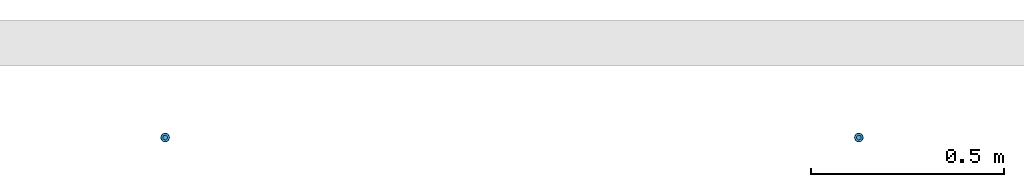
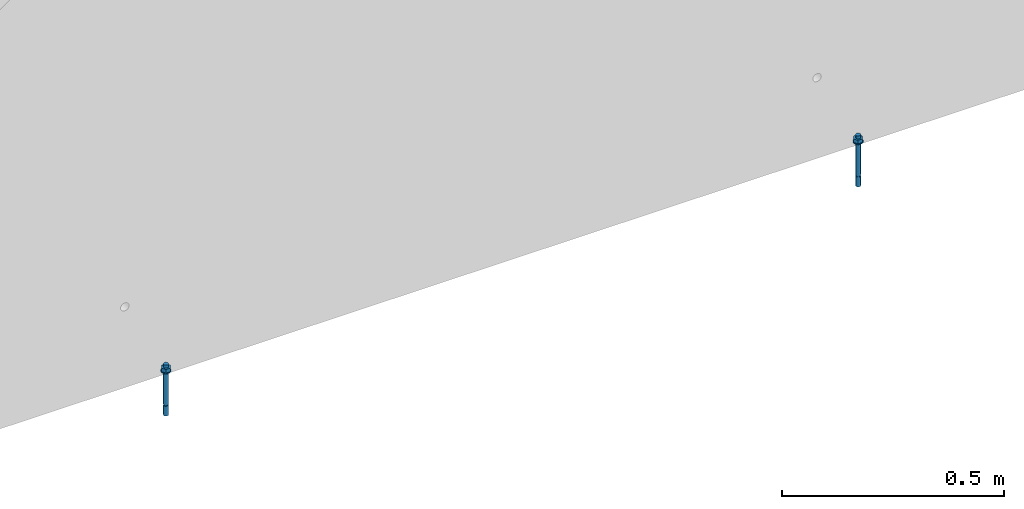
# One storey, part 1 of 2: 2 assemblies.
"""IFC2X3 building model written with IfcOpenShell, lengths in metres."""

from ifc_helpers import new_model, entity, si_unit, converted_unit, derived_unit, direction, frame, frame_2d, origin, place, context, subcontext, project, spatial, polyline, circle_curve, parameter, trimmed, segment, composite_curve, circle, hollow_circle, outline, extrude, source, transform, mapped, material, type_object, type_shapes, element, save


model = new_model("IFC2X3")

# Units and contexts
model_context = context("Model", 3, precision=1e-05, world=origin(), true_north=direction((6.123031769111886e-17, 1.0)))
body_context = subcontext(model_context, "Body", "Model", "MODEL_VIEW")
ifc_project = project(units=[si_unit("LENGTHUNIT", "METRE"), si_unit("AREAUNIT", "SQUARE_METRE"), converted_unit("PLANEANGLEUNIT", "DEGREE", entity("IfcPlaneAngleMeasure", 0.017453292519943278), si_unit("PLANEANGLEUNIT", "RADIAN"), dimensions=[0, 0, 0, 0, 0, 0, 0]), si_unit("VOLUMEUNIT", "CUBIC_METRE"), derived_unit("THERMALTRANSMITTANCEUNIT", [(si_unit("MASSUNIT", "GRAM", prefix="KILO"), 1), (si_unit("THERMODYNAMICTEMPERATUREUNIT", "KELVIN"), -1), (si_unit("TIMEUNIT", "SECOND"), -3)]), derived_unit("USERDEFINED", [(si_unit("MASSUNIT", "GRAM", prefix="KILO"), 1), (si_unit("THERMODYNAMICTEMPERATUREUNIT", "KELVIN"), -1), (si_unit("TIMEUNIT", "SECOND"), -2)]), derived_unit("THERMALRESISTANCEUNIT", [(si_unit("MASSUNIT", "GRAM", prefix="KILO"), -1), (si_unit("TIMEUNIT", "SECOND"), 3), (si_unit("THERMODYNAMICTEMPERATUREUNIT", "KELVIN"), 1)]), derived_unit("MASSDENSITYUNIT", [(si_unit("MASSUNIT", "GRAM", prefix="KILO"), 1), (si_unit("LENGTHUNIT", "METRE"), -3)]), derived_unit("VAPORPERMEABILITYUNIT", [(si_unit("LENGTHUNIT", "METRE"), -1), (si_unit("TIMEUNIT", "SECOND"), 1)]), derived_unit("USERDEFINED", [(si_unit("MASSUNIT", "GRAM", prefix="KILO"), 1), (si_unit("TIMEUNIT", "SECOND"), -3), (si_unit("LENGTHUNIT", "METRE"), 3), (si_unit("ELECTRICCURRENTUNIT", "AMPERE"), -2)]), si_unit("PRESSUREUNIT", "PASCAL")], contexts=[model_context])

# Site, building, storey
site_placement = place(None, origin())
site = spatial("IfcSite", under=ifc_project, at=site_placement, Name="Default", CompositionType="ELEMENT")
building_placement = place(site_placement, origin())
building = spatial("IfcBuilding", under=site, at=building_placement, CompositionType="ELEMENT")
storey_placement = place(building_placement, frame((0.0, 0.0, -3.0)))
storey = spatial("IfcBuildingStorey", under=building, at=storey_placement, Name="B1", CompositionType="ELEMENT", Elevation=-3.0000000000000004)

# Assemblies
ifc_material = material(Name="REC_Acero, S 275JR (Zincado)")
type_product_1 = type_object("IfcTypeProduct", Name="REC-AEM12-140:AEM12-140", material=ifc_material)
shared_shape_1 = source(origin(), body_context, "Body", "SweptSolid", [
    extrude(outline(polyline([(-0.005890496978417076, -0.010202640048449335), (0.005890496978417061, -0.010202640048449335), (0.01178099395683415, 0.0), (0.005890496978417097, 0.010202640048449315), (-0.0058904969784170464, 0.010202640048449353), (-0.011780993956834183, 0.0), (-0.005890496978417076, -0.010202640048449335)]), holes=[composite_curve([segment(trimmed(circle_curve(frame_2d((6.043164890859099e-09, 0.0), x_axis=(1.0, 0.0)), 0.005999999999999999), [parameter(3.053332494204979e-13)], [parameter(180.0)], True, "PARAMETER"), False, "CONTINUOUS"), segment(trimmed(circle_curve(frame_2d((6.043164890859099e-09, 0.0), x_axis=(1.0, 0.0)), 0.005999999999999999), [parameter(179.99999999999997)], [parameter(0.0)], True, "PARAMETER"), False, "CONTINUOUS")], self_intersect=False)]), frame((-6.043164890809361e-09, 0.0, 0.002399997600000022)), (0.0, 0.0, 1.0), 0.009600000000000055),
    extrude(hollow_circle(Radius=0.011999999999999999, WallThickness=0.004999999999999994, at=frame_2d((1.062573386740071e-19, -1.9386534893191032e-17), x_axis=(1.0, 0.0))), origin(), (0.0, 0.0, 1.0), 0.002399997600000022),
    extrude(circle(Radius=0.006, at=frame_2d((1.3218592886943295e-19, -9.69326744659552e-18), x_axis=(1.0, 0.0))), frame((0.0, 0.0, -0.09)), (0.0, 0.0, 1.0), 0.11),
    extrude(circle(Radius=0.006, at=frame_2d((1.3218592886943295e-19, -9.69326744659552e-18), x_axis=(1.0, 0.0))), frame((0.0, 0.0, -0.12)), (0.0, 0.0, 1.0), 0.026999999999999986),
    extrude(circle(Radius=0.005, at=frame_2d((1.3218592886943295e-19, -8.077722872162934e-18), x_axis=(1.0, 0.0))), frame((0.0, 0.0, -0.09300000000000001)), (0.0, 0.0, 1.0), 0.0030000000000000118),
])
type_shapes(type_product_1, [shared_shape_1])
assembly_1_placement = place(storey_placement, frame((5.487720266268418, 15.769530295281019, 3.008)))
element("IfcElementAssembly", 1, at=assembly_1_placement, inside=storey, type_object=type_product_1, material=ifc_material, Name="REC-AEM12-140:AEM12-140", ObjectType="REC-AEM12-140:AEM12-140", AssemblyPlace="NOTDEFINED", PredefinedType="NOTDEFINED", context=body_context, shape_type="MappedRepresentation", body=[
    mapped(shared_shape_1, transform((0.0, 0.0, 0.0), scale=1.0)),
])
type_product_2 = type_object("IfcTypeProduct", Name="REC-AEM12-140:AEM12-140", material=ifc_material)
shared_shape_2 = source(origin(), body_context, "Body", "SweptSolid", [
    extrude(outline(polyline([(-0.005890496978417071, -0.01020264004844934), (0.005890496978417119, -0.01020264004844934), (0.01178099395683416, 0.0), (0.005890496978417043, 0.010202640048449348), (-0.0058904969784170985, 0.010202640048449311), (-0.011780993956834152, 0.0), (-0.005890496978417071, -0.01020264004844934)]), holes=[composite_curve([segment(trimmed(circle_curve(frame_2d((-3.0215824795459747e-09, 5.2335342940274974e-09), x_axis=(-0.49999999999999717, 0.8660254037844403)), 0.005999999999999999), [parameter(0.0)], [parameter(180.00000000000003)], True, "PARAMETER"), False, "CONTINUOUS"), segment(trimmed(circle_curve(frame_2d((-3.0215824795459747e-09, 5.2335342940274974e-09), x_axis=(-0.49999999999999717, 0.8660254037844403)), 0.005999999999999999), [parameter(180.0)], [parameter(359.9999999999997)], True, "PARAMETER"), False, "CONTINUOUS")], self_intersect=False)]), frame((-6.04316488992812e-09, 0.0, 0.002399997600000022), z_axis=(0.0, 0.0, 1.0), x_axis=(-0.4999999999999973, -0.8660254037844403, 0.0)), (0.0, 0.0, 1.0), 0.009600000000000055),
    extrude(hollow_circle(Radius=0.011999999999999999, WallThickness=0.004999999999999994, at=frame_2d((1.062573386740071e-19, -5.4025493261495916e-17), x_axis=(1.0, 0.0))), origin(), (0.0, 0.0, 1.0), 0.002399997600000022),
    extrude(circle(Radius=0.006, at=frame_2d((1.3218592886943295e-19, -2.7012746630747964e-17), x_axis=(1.0, 0.0))), frame((0.0, 0.0, -0.09)), (0.0, 0.0, 1.0), 0.11),
    extrude(circle(Radius=0.006, at=frame_2d((1.3218592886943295e-19, -2.7012746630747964e-17), x_axis=(1.0, 0.0))), frame((0.0, 0.0, -0.12)), (0.0, 0.0, 1.0), 0.026999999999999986),
    extrude(circle(Radius=0.005, at=frame_2d((1.3218592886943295e-19, -2.251062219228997e-17), x_axis=(1.0, 0.0))), frame((0.0, 0.0, -0.09300000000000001)), (0.0, 0.0, 1.0), 0.0030000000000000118),
])
type_shapes(type_product_2, [shared_shape_2])
assembly_2_placement = place(storey_placement, frame((7.287720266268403, 15.769530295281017, 3.008), z_axis=(0.0, 0.0, 1.0), x_axis=(-1.0, 0.0, 0.0)))
element("IfcElementAssembly", 2, at=assembly_2_placement, inside=storey, type_object=type_product_2, material=ifc_material, Name="REC-AEM12-140:AEM12-140", ObjectType="REC-AEM12-140:AEM12-140", AssemblyPlace="NOTDEFINED", PredefinedType="NOTDEFINED", context=body_context, shape_type="MappedRepresentation", body=[
    mapped(shared_shape_2, transform((0.0, 0.0, 0.0), scale=1.0)),
])

save(model, "model.ifc")
